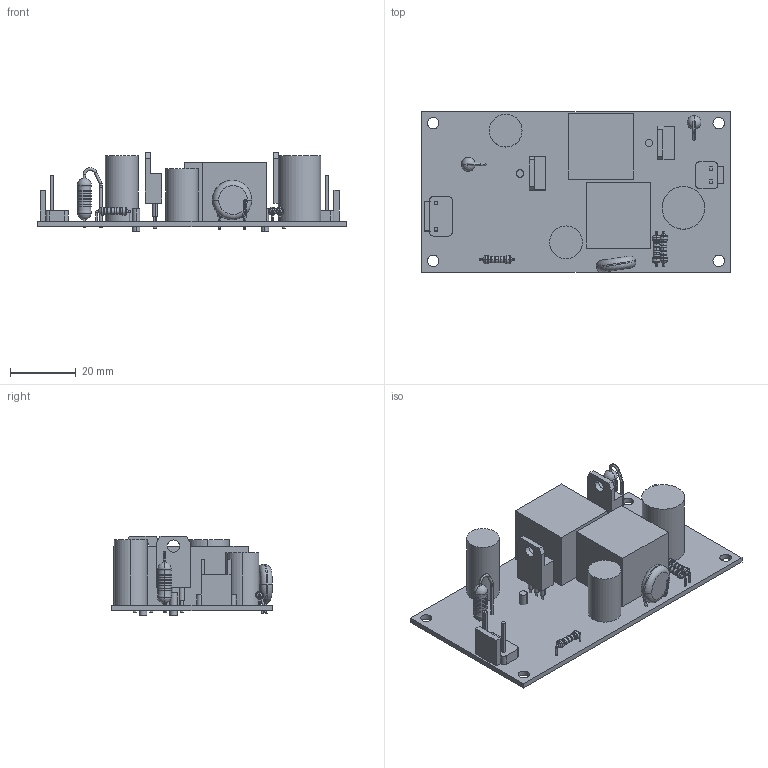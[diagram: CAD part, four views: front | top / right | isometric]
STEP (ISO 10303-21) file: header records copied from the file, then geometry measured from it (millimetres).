
FILE_DESCRIPTION(('Creo Elements/Direct Modeling STEP Export'),'2;1');
FILE_NAME('PSD-15-20250106.stp','2025-01-06T13:52:58',(''),(''),'Creo Elements/Direct Modeling STEP processor for AP214 (Solid Model)','Creo Elements/Direct Modeling 19.0G 27-Nov-2017 (C) Parametric Technology GmbH','');
FILE_SCHEMA(('AUTOMOTIVE_DESIGN { 1 0 10303 214 1 1 1 1 }'));
Length unit declared in the file: millimetre
Products named in the file (76): 零件1; CX2.PRT; CX1.PRT; T2.PRT; CYLINDER-745608_PRT-217320.PRT; 1539374888_ASM-217650.ASM; CYLINDER-745416_PRT-215930.PRT; 1539374584_ASM-216260.ASM; SPHERE-745362_PRT-214540.PRT; 1539375040_ASM-214870.ASM; SPHERE-745308_PRT-213600.PRT; 1539375344_ASM-213930.ASM; CYLINDER-745116_PRT-212660.PRT; 1539375496_ASM-212990.ASM; CYLINDER-744924_PRT-211270.PRT; 1539375648_ASM-211600.ASM; CYLINDER-744732_PRT-209880.PRT; 1539375800_ASM-210210.ASM; CYLINDER-744540_PRT-208490.PRT; 1539375952_ASM-208820.ASM; CYLINDER-744348_PRT-207100.PRT; 1539376104_ASM-207430.ASM; CYLINDER-744156_PRT-205710.PRT; 1539376256_ASM-206040.ASM; AN-1_RGB12632256_PRT-204460.PRT; DESIGNATOR40-744084_ASM_1.ASM; USER_LIBRARY-RES40-AXIAL-196630.PRT; DESIGNATOR40-736268_ASM_2.ASM; USER_LIBRARY-RES40-AXIAL-176260.PRT; DESIGNATOR40-736268_ASM_1.ASM; USER_LIBRARY-RES40-AXIAL-155890.PRT; DESIGNATOR40-736268_ASM.ASM; CYLINDER-745608_PRT-135360.PRT; 1539374888_ASM-135690.ASM; CYLINDER-745416_PRT-133970.PRT; 1539374584_ASM-134300.ASM; SPHERE-745362_PRT-132580.PRT; 1539375040_ASM-132910.ASM; SPHERE-745308_PRT-131640.PRT; 1539375344_ASM-131970.ASM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
Assembly tree (74 placements, depth 7):
  零件1
  PSD-15.stp
    PSD-15_1.ASM
      HS.ASM
        HS1.ASM
          1-1000.PRT
          YS012W-022-24100.PRT
        HS1_1.ASM
          1-25530.PRT
          YS012W-022-48630.PRT
      PCB-53990.ASM
        PCB-53660.PRT
      PART.ASM
        1BC1-Y-L110W040-P075_1_PRT_1_1.PRT
        Q1_PRT_1.PRT
        Q1_PRT.PRT
        T1_PRT_PRT.PRT
        CN2-26840_ASM_ASM.PRT
        CX.PRT
        CN1-34420_ASM_ASM_ASM.ASM
          CN1-34090_PRT_PRT_PRT.PRT
          CN1-34090_PRT_PRT_PRT_1.PRT
        1A.ASM
          DESIGNATOR40-744084_ASM.ASM
            AN-1_RGB12632256_PRT-122500.PRT
            1539376256_ASM-124080.ASM
              CYLINDER-744156_PRT-123750.PRT
            1539376104_ASM-125470.ASM
              CYLINDER-744348_PRT-125140.PRT
            1539375952_ASM-126860.ASM
              CYLINDER-744540_PRT-126530.PRT
            1539375800_ASM-128250.ASM
              CYLINDER-744732_PRT-127920.PRT
            1539375648_ASM-129640.ASM
              CYLINDER-744924_PRT-129310.PRT
            1539375496_ASM-131030.ASM
              CYLINDER-745116_PRT-130700.PRT
            1539375344_ASM-131970.ASM
              SPHERE-745308_PRT-131640.PRT
            1539375040_ASM-132910.ASM
              SPHERE-745362_PRT-132580.PRT
            1539374584_ASM-134300.ASM
              CYLINDER-745416_PRT-133970.PRT
            1539374888_ASM-135690.ASM
              CYLINDER-745608_PRT-135360.PRT
          DESIGNATOR40-736268_ASM.ASM
            USER_LIBRARY-RES40-AXIAL-155890.PRT
          DESIGNATOR40-736268_ASM_1.ASM
            USER_LIBRARY-RES40-AXIAL-176260.PRT
          DESIGNATOR40-736268_ASM_2.ASM
            USER_LIBRARY-RES40-AXIAL-196630.PRT
          DESIGNATOR40-744084_ASM_1.ASM
            AN-1_RGB12632256_PRT-204460.PRT
            1539376256_ASM-206040.ASM
              CYLINDER-744156_PRT-205710.PRT
            1539376104_ASM-207430.ASM
              CYLINDER-744348_PRT-207100.PRT
            1539375952_ASM-208820.ASM
              CYLINDER-744540_PRT-208490.PRT
            1539375800_ASM-210210.ASM
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Bounding box: 93.98 x 49 x 24.25 mm (x, y, z)
Volume: 29839.5 mm3; surface area: 20458.7 mm2
Topology: 38 solids, 38 shells, 434 faces, 874 edges, 516 vertices
Faces by surface type: cylinder 178, plane 146, torus 68, bspline 32, sphere 8, revolution 2
Entity records: 16545 total; most frequent: CARTESIAN_POINT 3995, DIRECTION 1864, ORIENTED_EDGE 1716, EDGE_CURVE 858, AXIS2_PLACEMENT_3D 752, VERTEX_POINT 516, EDGE_LOOP 462, FACE_OUTER_BOUND 434
